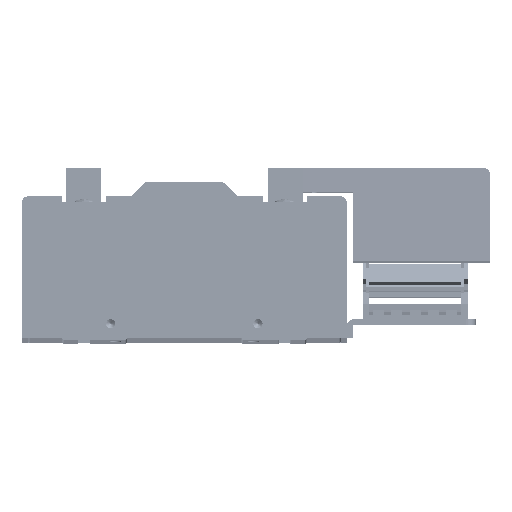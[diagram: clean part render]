
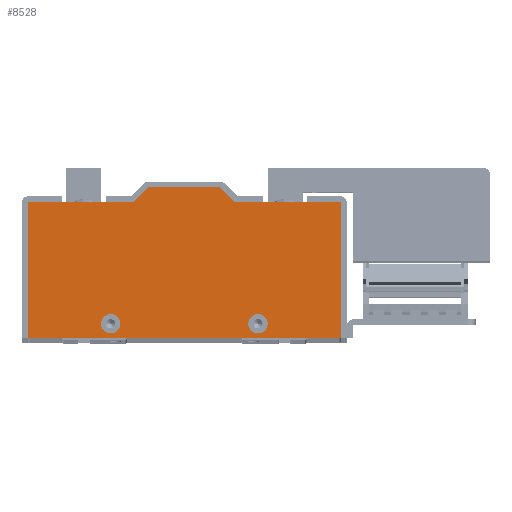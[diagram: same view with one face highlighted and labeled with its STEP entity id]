
A CAD part, top view. The second image highlights one B-rep face of the part: STEP entity #8528.
In plain terms, the highlighted planar face has unit normal (0, 0, 1).
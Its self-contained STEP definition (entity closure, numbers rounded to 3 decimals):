
#75 = VERTEX_POINT ( 'NONE', #95176 ) ;
#82 = EDGE_CURVE ( 'NONE', #235, #75, #94774, .T. ) ;
#166 = VERTEX_POINT ( 'NONE', #94882 ) ;
#176 = EDGE_CURVE ( 'NONE', #166, #177, #95049, .T. ) ;
#177 = VERTEX_POINT ( 'NONE', #95036 ) ;
#235 = VERTEX_POINT ( 'NONE', #95539 ) ;
#248 = EDGE_CURVE ( 'NONE', #1124, #235, #95524, .T. ) ;
#647 = EDGE_CURVE ( 'NONE', #122313, #1124, #95937, .T. ) ;
#1124 = VERTEX_POINT ( 'NONE', #97804 ) ;
#8528 = ADVANCED_FACE ( 'NONE', ( #61153, #61135, #61134 ), #61133, .T. ) ;
#8531 = EDGE_LOOP ( 'NONE', ( #8535, #8541 ) ) ;
#8535 = ORIENTED_EDGE ( 'NONE', *, *, #8539, .F. ) ;
#8539 = EDGE_CURVE ( 'NONE', #177, #166, #61127, .T. ) ;
#8541 = ORIENTED_EDGE ( 'NONE', *, *, #176, .F. ) ;
#8558 = EDGE_LOOP ( 'NONE', ( #8565, #8574 ) ) ;
#8565 = ORIENTED_EDGE ( 'NONE', *, *, #8570, .F. ) ;
#8570 = EDGE_CURVE ( 'NONE', #122312, #122187, #61380, .T. ) ;
#8574 = ORIENTED_EDGE ( 'NONE', *, *, #122201, .F. ) ;
#8615 = VERTEX_POINT ( 'NONE', #61511 ) ;
#8634 = EDGE_CURVE ( 'NONE', #75, #8615, #61500, .T. ) ;
#8673 = EDGE_LOOP ( 'NONE', ( #8682, #8927, #8935, #8862, #8864, #8868, #127015, #126941 ) ) ;
#8682 = ORIENTED_EDGE ( 'NONE', *, *, #123050, .T. ) ;
#8862 = ORIENTED_EDGE ( 'NONE', *, *, #647, .T. ) ;
#8864 = ORIENTED_EDGE ( 'NONE', *, *, #248, .T. ) ;
#8868 = ORIENTED_EDGE ( 'NONE', *, *, #82, .T. ) ;
#8927 = ORIENTED_EDGE ( 'NONE', *, *, #122274, .T. ) ;
#8935 = ORIENTED_EDGE ( 'NONE', *, *, #122321, .T. ) ;
#60868 = DIRECTION ( 'NONE',  ( 0., 0., 1. ) ) ;
#61125 = CARTESIAN_POINT ( 'NONE',  ( -40., -29., 9.525 ) ) ;
#61126 = AXIS2_PLACEMENT_3D ( 'NONE', #61125, #60868, #61455 ) ;
#61127 = CIRCLE ( 'NONE', #61126, 5.25 ) ;
#61129 = DIRECTION ( 'NONE',  ( 1., 0., 0. ) ) ;
#61130 = DIRECTION ( 'NONE',  ( 0., 0., 1. ) ) ;
#61131 = CARTESIAN_POINT ( 'NONE',  ( -85., 37., 9.525 ) ) ;
#61132 = AXIS2_PLACEMENT_3D ( 'NONE', #61131, #61130, #61129 ) ;
#61133 = PLANE ( 'NONE',  #61132 ) ;
#61134 = FACE_OUTER_BOUND ( 'NONE', #8673, .T. ) ;
#61135 = FACE_BOUND ( 'NONE', #8558, .T. ) ;
#61153 = FACE_BOUND ( 'NONE', #8531, .T. ) ;
#61379 = AXIS2_PLACEMENT_3D ( 'NONE', #61450, #61384, #61383 ) ;
#61380 = CIRCLE ( 'NONE', #61379, 5.25 ) ;
#61383 = DIRECTION ( 'NONE',  ( 1., 0., 0. ) ) ;
#61384 = DIRECTION ( 'NONE',  ( 0., 0., 1. ) ) ;
#61450 = CARTESIAN_POINT ( 'NONE',  ( 40., -29., 9.525 ) ) ;
#61455 = DIRECTION ( 'NONE',  ( 1., 0., 0. ) ) ;
#61497 = DIRECTION ( 'NONE',  ( -0.707, -0.707, 0. ) ) ;
#61498 = VECTOR ( 'NONE', #61497, 1000. ) ;
#61499 = CARTESIAN_POINT ( 'NONE',  ( -27.5, 37., 9.525 ) ) ;
#61500 = LINE ( 'NONE', #61499, #61498 ) ;
#61511 = CARTESIAN_POINT ( 'NONE',  ( -27.5, 37., 9.525 ) ) ;
#68590 = CARTESIAN_POINT ( 'NONE',  ( 34.75, -29., 9.525 ) ) ;
#68787 = DIRECTION ( 'NONE',  ( 1., 0., 0. ) ) ;
#68788 = DIRECTION ( 'NONE',  ( 0., 0., 1. ) ) ;
#68790 = AXIS2_PLACEMENT_3D ( 'NONE', #68805, #68788, #68787 ) ;
#68791 = CIRCLE ( 'NONE', #68790, 5.25 ) ;
#68805 = CARTESIAN_POINT ( 'NONE',  ( 40., -29., 9.525 ) ) ;
#69107 = DIRECTION ( 'NONE',  ( 1., 0., 0. ) ) ;
#69108 = VECTOR ( 'NONE', #69107, 1000. ) ;
#69110 = CARTESIAN_POINT ( 'NONE',  ( -85., -37., 9.525 ) ) ;
#69112 = LINE ( 'NONE', #69110, #69108 ) ;
#69139 = DIRECTION ( 'NONE',  ( 0., 1., 0. ) ) ;
#69140 = VECTOR ( 'NONE', #69139, 1000. ) ;
#69142 = CARTESIAN_POINT ( 'NONE',  ( 85., 37., 9.525 ) ) ;
#69144 = LINE ( 'NONE', #69142, #69140 ) ;
#69160 = CARTESIAN_POINT ( 'NONE',  ( 85., 37., 9.525 ) ) ;
#69161 = CARTESIAN_POINT ( 'NONE',  ( 45.25, -29., 9.525 ) ) ;
#69684 = CARTESIAN_POINT ( 'NONE',  ( 85., -37., 9.525 ) ) ;
#69876 = CARTESIAN_POINT ( 'NONE',  ( -85., 37., 9.525 ) ) ;
#69882 = DIRECTION ( 'NONE',  ( 0., -1., 0. ) ) ;
#69883 = VECTOR ( 'NONE', #69882, 1000. ) ;
#69884 = CARTESIAN_POINT ( 'NONE',  ( -85., 37., 9.525 ) ) ;
#69885 = LINE ( 'NONE', #69884, #69883 ) ;
#70270 = CARTESIAN_POINT ( 'NONE',  ( -85., -37., 9.525 ) ) ;
#72666 = DIRECTION ( 'NONE',  ( -1., 0., 0. ) ) ;
#72667 = VECTOR ( 'NONE', #72666, 1000. ) ;
#72668 = CARTESIAN_POINT ( 'NONE',  ( -85., 37., 9.525 ) ) ;
#72673 = LINE ( 'NONE', #72668, #72667 ) ;
#94771 = DIRECTION ( 'NONE',  ( -1., 0., 0. ) ) ;
#94773 = CARTESIAN_POINT ( 'NONE',  ( -19.5, 45., 9.525 ) ) ;
#94774 = LINE ( 'NONE', #94773, #95181 ) ;
#94882 = CARTESIAN_POINT ( 'NONE',  ( -45.25, -29., 9.525 ) ) ;
#95036 = CARTESIAN_POINT ( 'NONE',  ( -34.75, -29., 9.525 ) ) ;
#95039 = DIRECTION ( 'NONE',  ( 1., 0., 0. ) ) ;
#95043 = DIRECTION ( 'NONE',  ( 0., 0., 1. ) ) ;
#95045 = CARTESIAN_POINT ( 'NONE',  ( -40., -29., 9.525 ) ) ;
#95047 = AXIS2_PLACEMENT_3D ( 'NONE', #95045, #95043, #95039 ) ;
#95049 = CIRCLE ( 'NONE', #95047, 5.25 ) ;
#95176 = CARTESIAN_POINT ( 'NONE',  ( -19.5, 45., 9.525 ) ) ;
#95181 = VECTOR ( 'NONE', #94771, 1000. ) ;
#95511 = DIRECTION ( 'NONE',  ( -0.707, 0.707, 0. ) ) ;
#95512 = VECTOR ( 'NONE', #95511, 1000. ) ;
#95522 = CARTESIAN_POINT ( 'NONE',  ( 19.5, 45., 9.525 ) ) ;
#95524 = LINE ( 'NONE', #95522, #95512 ) ;
#95539 = CARTESIAN_POINT ( 'NONE',  ( 19.5, 45., 9.525 ) ) ;
#95937 = LINE ( 'NONE', #96038, #96035 ) ;
#96033 = DIRECTION ( 'NONE',  ( -1., 0., 0. ) ) ;
#96035 = VECTOR ( 'NONE', #96033, 1000. ) ;
#96038 = CARTESIAN_POINT ( 'NONE',  ( 27.5, 37., 9.525 ) ) ;
#97804 = CARTESIAN_POINT ( 'NONE',  ( 27.5, 37., 9.525 ) ) ;
#122187 = VERTEX_POINT ( 'NONE', #68590 ) ;
#122201 = EDGE_CURVE ( 'NONE', #122187, #122312, #68791, .T. ) ;
#122274 = EDGE_CURVE ( 'NONE', #123317, #122834, #69112, .T. ) ;
#122312 = VERTEX_POINT ( 'NONE', #69161 ) ;
#122313 = VERTEX_POINT ( 'NONE', #69160 ) ;
#122321 = EDGE_CURVE ( 'NONE', #122834, #122313, #69144, .T. ) ;
#122834 = VERTEX_POINT ( 'NONE', #69684 ) ;
#123050 = EDGE_CURVE ( 'NONE', #123052, #123317, #69885, .T. ) ;
#123052 = VERTEX_POINT ( 'NONE', #69876 ) ;
#123317 = VERTEX_POINT ( 'NONE', #70270 ) ;
#124991 = EDGE_CURVE ( 'NONE', #8615, #123052, #72673, .T. ) ;
#126941 = ORIENTED_EDGE ( 'NONE', *, *, #124991, .T. ) ;
#127015 = ORIENTED_EDGE ( 'NONE', *, *, #8634, .T. ) ;
